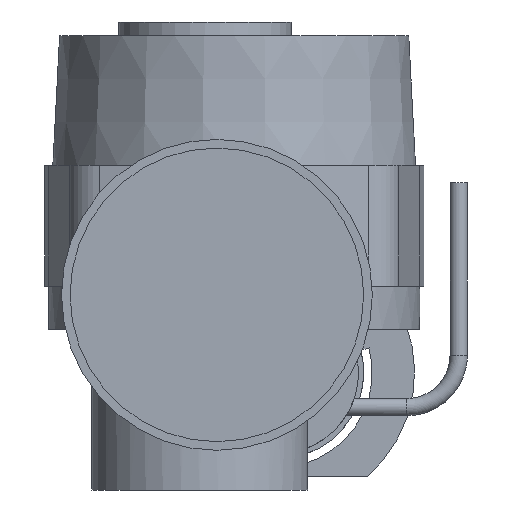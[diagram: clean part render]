
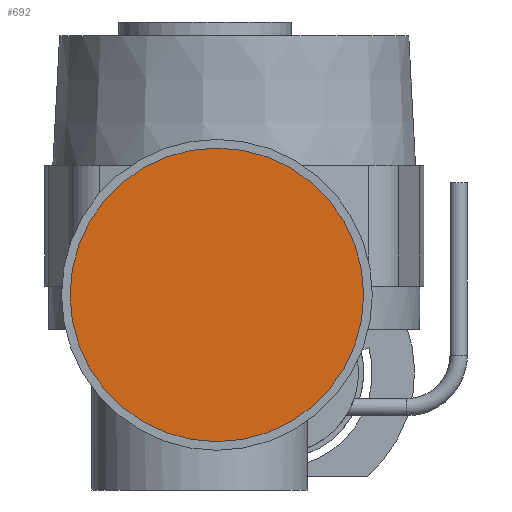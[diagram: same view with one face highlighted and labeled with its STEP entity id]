
A CAD part, front view. The second image highlights one B-rep face of the part: STEP entity #692.
In plain terms, the highlighted planar face has unit normal (0, -1, 0).
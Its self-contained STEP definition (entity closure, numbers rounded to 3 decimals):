
#692=ADVANCED_FACE('',(#1505),#1507,.T.);
#1505=FACE_BOUND('',#1506,.T.);
#1506=EDGE_LOOP('',(#1979));
#1507=PLANE('',#1508);
#1508=AXIS2_PLACEMENT_3D('',#1509,#1510,#1511);
#1509=CARTESIAN_POINT('',(-10.,-232.,-5.));
#1510=DIRECTION('',(0.,-1.,0.));
#1511=DIRECTION('',(0.,0.,1.));
#1979=ORIENTED_EDGE('',*,*,#2222,.F.);
#2222=EDGE_CURVE('',#2511,#2511,#2512,.T.);
#2511=VERTEX_POINT('',#3863);
#2512=CIRCLE('',#3864,85.);
#3863=CARTESIAN_POINT('',(-10.,-232.,80.));
#3864=AXIS2_PLACEMENT_3D('',#3865,#3866,#3867);
#3865=CARTESIAN_POINT('',(-10.,-232.,-5.));
#3866=DIRECTION('',(-0.,1.,0.));
#3867=DIRECTION('',(0.,0.,1.));
